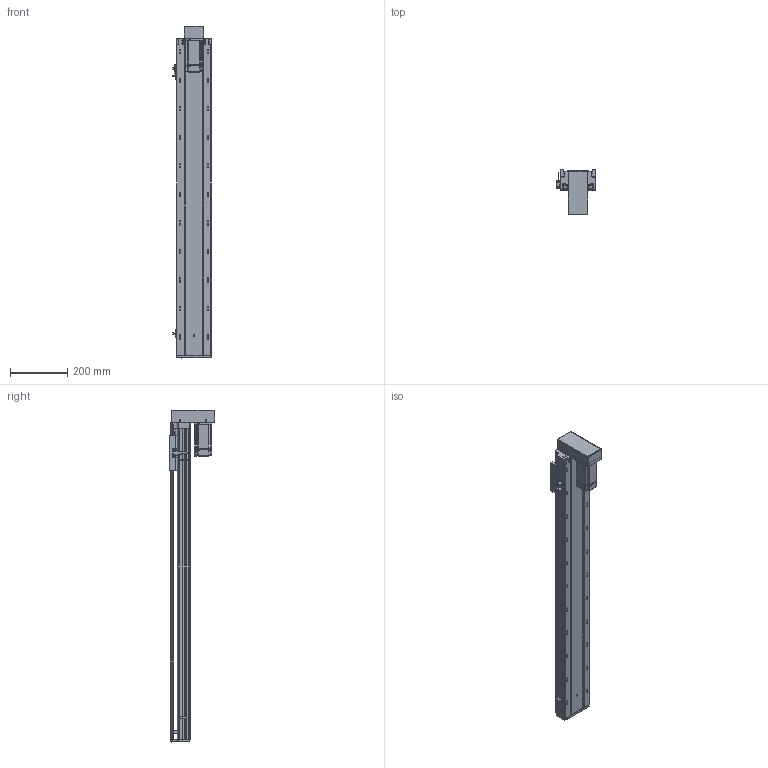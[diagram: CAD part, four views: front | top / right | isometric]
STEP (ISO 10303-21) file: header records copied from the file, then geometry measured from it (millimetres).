
FILE_DESCRIPTION (( 'STEP AP203' ), '1' );
FILE_NAME ('RY120-L2020-300-BK.SLDASM_900.step', '2021-03-12T06:58:18', ( '盈信电脑' ), ( '东莞市道滘镇水果街19号' ), 'SwSTEP 2.0', 'SolidWorks 2012', '' );
FILE_SCHEMA (( 'CONFIG_CONTROL_DESIGN' ));
Products named in the file (15): RY120-L2020-300-BK.SLDASM_900; RY120狟殏萇儂欶; RY120-400W萇儂傷-BK; RY120下折折电机安装板; RY120外置感应片(140共用）; 侂狟400W侜督萇儂; 15; RY120转拆电端丝杆支撑座(20丝杆，7002轴承); RY120綴裔啣; 滅袉蝶18-24; 覜茼ん672; 滅袉蝶18-10; RY120-300-BK蛌殏倰第菁釱_900; RY120臏賑輸(20蹟譫); RY120-300-BK蛌殏倰第奻裔啣_900
Assembly tree (17 placements, depth 4):
  RY120-L2020-300-BK.SLDASM_900
    RY120-300-BK蛌殏倰第菁釱_900
    RY120-300-BK蛌殏倰第奻裔啣_900
    RY120臏賑輸(20蹟譫)
    RY120綴裔啣
    覜茼ん672  x3
    滅袉蝶18-10
    滅袉蝶18-24  x2
    RY120外置感应片(140共用）
    RY120转拆电端丝杆支撑座(20丝杆，7002轴承)
    RY120-400W萇儂傷-BK
      侂狟400W侜督萇儂
        15
      RY120狟殏萇儂欶
      RY120下折折电机安装板
Bounding box: 135.7 x 159.5 x 1164 mm (x, y, z)
Volume: 3282475.3 mm3; surface area: 1211648.5 mm2
Topology: 16 solids, 16 shells, 2624 faces, 7263 edges, 4654 vertices
Faces by surface type: plane 1256, cylinder 1028, cone 235, bspline 105
Entity records: 88487 total; most frequent: CARTESIAN_POINT 25681, ORIENTED_EDGE 13206, DIRECTION 12039, EDGE_CURVE 6603, VERTEX_POINT 4322, AXIS2_PLACEMENT_3D 4037, LINE 3965, VECTOR 3965
